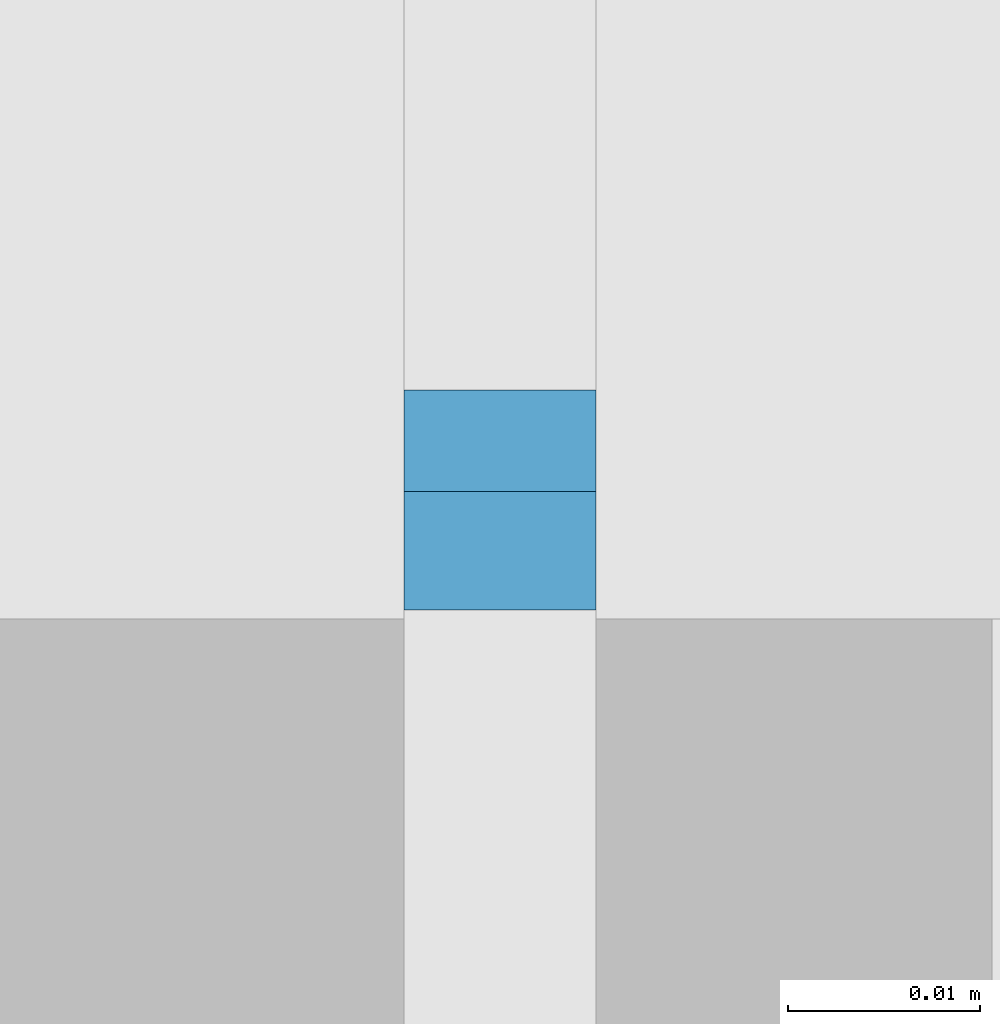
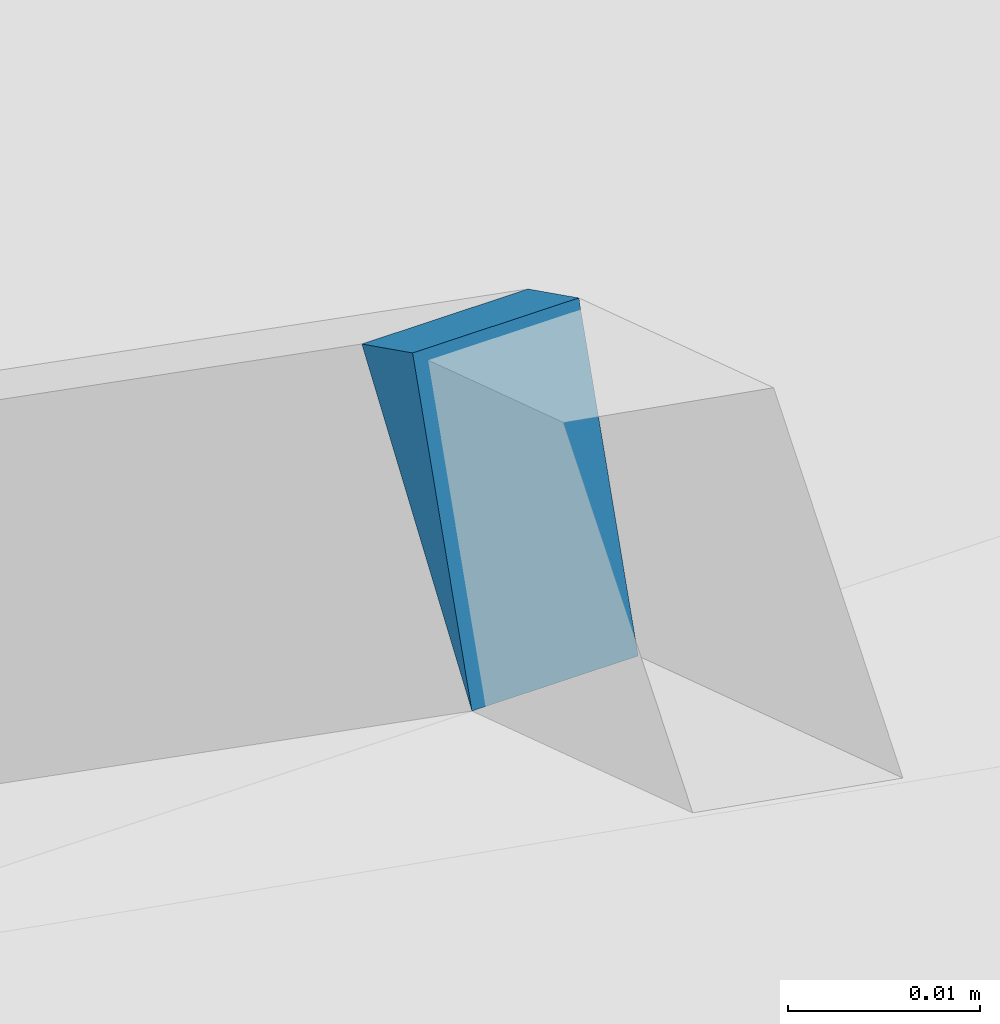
# One storey, part 339 of 583: 1 slab.
"""IFC2X3 building model written with IfcOpenShell, lengths in metres."""

from ifc_helpers import new_model, entity, si_unit, converted_unit, derived_unit, money_unit, direction, frame, origin_with_axes, place, context, subcontext, project, spatial, faceted_brep, material, type_object, element, save


model = new_model("IFC2X3")

# Units and contexts
model_context = context("Model", 3, precision=1e-05, world=origin_with_axes(), true_north=direction((0.0, 1.0)))
body_context = subcontext(model_context, "Body", "Model", "MODEL_VIEW", scale=1.0)
ifc_project = project(units=[si_unit("LENGTHUNIT", "METRE"), si_unit("AREAUNIT", "SQUARE_METRE"), si_unit("VOLUMEUNIT", "CUBIC_METRE"), si_unit("ABSORBEDDOSEUNIT", "GRAY"), si_unit("AMOUNTOFSUBSTANCEUNIT", "MOLE"), si_unit("DOSEEQUIVALENTUNIT", "SIEVERT"), si_unit("ELECTRICCAPACITANCEUNIT", "FARAD"), si_unit("ELECTRICCHARGEUNIT", "COULOMB"), si_unit("ELECTRICCONDUCTANCEUNIT", "SIEMENS"), si_unit("ELECTRICCURRENTUNIT", "AMPERE"), si_unit("ELECTRICRESISTANCEUNIT", "OHM"), si_unit("ELECTRICVOLTAGEUNIT", "VOLT"), si_unit("ENERGYUNIT", "JOULE"), si_unit("FORCEUNIT", "NEWTON"), si_unit("FREQUENCYUNIT", "HERTZ"), si_unit("ILLUMINANCEUNIT", "LUX"), si_unit("INDUCTANCEUNIT", "HENRY"), si_unit("LUMINOUSFLUXUNIT", "LUMEN"), si_unit("LUMINOUSINTENSITYUNIT", "CANDELA"), si_unit("MAGNETICFLUXDENSITYUNIT", "TESLA"), si_unit("MAGNETICFLUXUNIT", "WEBER"), si_unit("MASSUNIT", "GRAM"), converted_unit("PLANEANGLEUNIT", "degree", entity("IfcReal", 0.0174532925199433), si_unit("PLANEANGLEUNIT", "RADIAN"), dimensions=[0, 0, 0, 0, 0, 0, 0]), si_unit("POWERUNIT", "WATT"), si_unit("PRESSUREUNIT", "PASCAL"), si_unit("RADIOACTIVITYUNIT", "BECQUEREL"), si_unit("SOLIDANGLEUNIT", "STERADIAN"), si_unit("THERMODYNAMICTEMPERATUREUNIT", "KELVIN"), si_unit("TIMEUNIT", "SECOND"), derived_unit("ACCELERATIONUNIT", [(si_unit("LENGTHUNIT", "METRE"), 1), (si_unit("TIMEUNIT", "SECOND"), -2)]), derived_unit("ANGULARVELOCITYUNIT", [(converted_unit("PLANEANGLEUNIT", "degree", entity("IfcReal", 0.0174532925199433), si_unit("PLANEANGLEUNIT", "RADIAN"), dimensions=[0, 0, 0, 0, 0, 0, 0]), 1), (si_unit("TIMEUNIT", "SECOND"), -1)]), derived_unit("CURVATUREUNIT", [(converted_unit("PLANEANGLEUNIT", "degree", entity("IfcReal", 0.0174532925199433), si_unit("PLANEANGLEUNIT", "RADIAN"), dimensions=[0, 0, 0, 0, 0, 0, 0]), 1), (si_unit("LENGTHUNIT", "METRE"), -1)]), derived_unit("DYNAMICVISCOSITYUNIT", [(si_unit("PRESSUREUNIT", "PASCAL"), 1), (si_unit("TIMEUNIT", "SECOND"), 1)]), derived_unit("HEATFLUXDENSITYUNIT", [(si_unit("POWERUNIT", "WATT"), 1), (si_unit("LENGTHUNIT", "METRE"), -2)]), derived_unit("HEATINGVALUEUNIT", [(si_unit("ENERGYUNIT", "JOULE"), 1), (si_unit("MASSUNIT", "GRAM"), -1)]), derived_unit("INTEGERCOUNTRATEUNIT", [(si_unit("TIMEUNIT", "SECOND"), -1)]), derived_unit("IONCONCENTRATIONUNIT", [(si_unit("MASSUNIT", "GRAM"), 1), (si_unit("VOLUMEUNIT", "CUBIC_METRE"), -1)]), derived_unit("ISOTHERMALMOISTURECAPACITYUNIT", [(si_unit("VOLUMEUNIT", "CUBIC_METRE"), 1), (si_unit("MASSUNIT", "GRAM"), -1)]), derived_unit("KINEMATICVISCOSITYUNIT", [(si_unit("AREAUNIT", "SQUARE_METRE"), 1), (si_unit("TIMEUNIT", "SECOND"), -1)]), derived_unit("LINEARFORCEUNIT", [(si_unit("FORCEUNIT", "NEWTON"), 1), (si_unit("LENGTHUNIT", "METRE"), -1)]), derived_unit("LINEARMOMENTUNIT", [(si_unit("FORCEUNIT", "NEWTON"), 1), (si_unit("LENGTHUNIT", "METRE"), -1)]), derived_unit("LINEARSTIFFNESSUNIT", [(si_unit("FORCEUNIT", "NEWTON"), 1), (si_unit("LENGTHUNIT", "METRE"), -1)]), derived_unit("LINEARVELOCITYUNIT", [(si_unit("LENGTHUNIT", "METRE"), 1), (si_unit("TIMEUNIT", "SECOND"), -1)]), derived_unit("LUMINOUSINTENSITYDISTRIBUTIONUNIT", [(si_unit("LUMINOUSINTENSITYUNIT", "CANDELA"), 1), (si_unit("LUMINOUSFLUXUNIT", "LUMEN"), -1)]), derived_unit("MASSDENSITYUNIT", [(si_unit("MASSUNIT", "GRAM"), 1), (si_unit("VOLUMEUNIT", "CUBIC_METRE"), -1)]), derived_unit("MASSFLOWRATEUNIT", [(si_unit("MASSUNIT", "GRAM"), 1), (si_unit("TIMEUNIT", "SECOND"), -1)]), derived_unit("MASSPERLENGTHUNIT", [(si_unit("MASSUNIT", "GRAM"), 1), (si_unit("LENGTHUNIT", "METRE"), -1)]), derived_unit("MODULUSOFELASTICITYUNIT", [(si_unit("FORCEUNIT", "NEWTON"), 1), (si_unit("AREAUNIT", "SQUARE_METRE"), -1)]), derived_unit("MODULUSOFLINEARSUBGRADEREACTIONUNIT", [(si_unit("FORCEUNIT", "NEWTON"), 1), (si_unit("LENGTHUNIT", "METRE"), -2)]), derived_unit("MODULUSOFROTATIONALSUBGRADEREACTIONUNIT", [(si_unit("FORCEUNIT", "NEWTON"), 1), (si_unit("LENGTHUNIT", "METRE"), 1)]), derived_unit("MODULUSOFSUBGRADEREACTIONUNIT", [(si_unit("FORCEUNIT", "NEWTON"), 1), (si_unit("VOLUMEUNIT", "CUBIC_METRE"), -1)]), derived_unit("MOISTUREDIFFUSIVITYUNIT", [(si_unit("VOLUMEUNIT", "CUBIC_METRE"), 1), (si_unit("TIMEUNIT", "SECOND"), -1)]), derived_unit("MOLECULARWEIGHTUNIT", [(si_unit("MASSUNIT", "GRAM"), 1), (si_unit("AMOUNTOFSUBSTANCEUNIT", "MOLE"), -1)]), derived_unit("PLANARFORCEUNIT", [(si_unit("FORCEUNIT", "NEWTON"), 1), (si_unit("LENGTHUNIT", "METRE"), -2)]), derived_unit("ROTATIONALFREQUENCYUNIT", [(si_unit("TIMEUNIT", "SECOND"), -1)]), derived_unit("ROTATIONALMASSUNIT", [(si_unit("MASSUNIT", "GRAM"), 1), (si_unit("LENGTHUNIT", "METRE"), 2)]), derived_unit("ROTATIONALSTIFFNESSUNIT", [(si_unit("FORCEUNIT", "NEWTON"), 1), (si_unit("LENGTHUNIT", "METRE"), 1), (converted_unit("PLANEANGLEUNIT", "degree", entity("IfcReal", 0.0174532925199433), si_unit("PLANEANGLEUNIT", "RADIAN"), dimensions=[0, 0, 0, 0, 0, 0, 0]), -1)]), derived_unit("SECTIONAREAINTEGRALUNIT", [(si_unit("LENGTHUNIT", "METRE"), 5)]), derived_unit("SECTIONMODULUSUNIT", [(si_unit("LENGTHUNIT", "METRE"), 3)]), derived_unit("SHEARMODULUSUNIT", [(si_unit("FORCEUNIT", "NEWTON"), 1), (si_unit("AREAUNIT", "SQUARE_METRE"), -1)]), derived_unit("SOUNDPOWERUNIT", [(si_unit("ENERGYUNIT", "JOULE"), 1), (si_unit("TIMEUNIT", "SECOND"), -1)]), derived_unit("SPECIFICHEATCAPACITYUNIT", [(si_unit("FORCEUNIT", "NEWTON"), 1), (si_unit("MASSUNIT", "GRAM"), -1), (si_unit("THERMODYNAMICTEMPERATUREUNIT", "KELVIN"), -1)]), derived_unit("TEMPERATUREGRADIENTUNIT", [(si_unit("THERMODYNAMICTEMPERATUREUNIT", "KELVIN"), 1), (si_unit("LENGTHUNIT", "METRE"), -1)]), derived_unit("THERMALADMITTANCEUNIT", [(si_unit("POWERUNIT", "WATT"), 1), (si_unit("AREAUNIT", "SQUARE_METRE"), -1), (si_unit("THERMODYNAMICTEMPERATUREUNIT", "KELVIN"), -1)]), derived_unit("THERMALCONDUCTANCEUNIT", [(si_unit("POWERUNIT", "WATT"), 1), (si_unit("LENGTHUNIT", "METRE"), -1), (si_unit("THERMODYNAMICTEMPERATUREUNIT", "KELVIN"), -1)]), derived_unit("THERMALEXPANSIONCOEFFICIENTUNIT", [(si_unit("THERMODYNAMICTEMPERATUREUNIT", "KELVIN"), -1)]), derived_unit("THERMALRESISTANCEUNIT", [(si_unit("AREAUNIT", "SQUARE_METRE"), 1), (si_unit("POWERUNIT", "WATT"), -1)]), derived_unit("THERMALTRANSMITTANCEUNIT", [(si_unit("POWERUNIT", "WATT"), 1), (si_unit("AREAUNIT", "SQUARE_METRE"), -1), (si_unit("THERMODYNAMICTEMPERATUREUNIT", "KELVIN"), -1)]), derived_unit("TORQUEUNIT", [(si_unit("FORCEUNIT", "NEWTON"), 1), (si_unit("LENGTHUNIT", "METRE"), 1)]), derived_unit("VAPORPERMEABILITYUNIT", [(si_unit("MASSUNIT", "GRAM"), 1), (si_unit("TIMEUNIT", "SECOND"), -1)]), derived_unit("VOLUMETRICFLOWRATEUNIT", [(si_unit("VOLUMEUNIT", "CUBIC_METRE"), 1), (si_unit("TIMEUNIT", "SECOND"), -1)]), derived_unit("WARPINGCONSTANTUNIT", [(si_unit("LENGTHUNIT", "METRE"), 6)]), derived_unit("WARPINGMOMENTUNIT", [(si_unit("FORCEUNIT", "NEWTON"), 1), (si_unit("LENGTHUNIT", "METRE"), 2)]), money_unit("GBP")], contexts=[model_context])

# Site, building, storey
site_placement = place(None, origin_with_axes())
site = spatial("IfcSite", under=ifc_project, at=site_placement, Name="Site", CompositionType="ELEMENT")
building_placement = place(site_placement, origin_with_axes())
building = spatial("IfcBuilding", under=site, at=building_placement, Name="Building01", CompositionType="ELEMENT")
storey_placement = place(building_placement, frame((0.0, 0.0, 20.78), z_axis=(0.0, 0.0, 1.0), x_axis=(1.0, 0.0, 0.0)))
storey = spatial("IfcBuildingStorey", under=building, at=storey_placement, Name="RL", CompositionType="ELEMENT", Elevation=20.78)

# Slab
ifc_material = material(Name="A_BSUK_Roofs")
slab_type = type_object("IfcSlabType", Name="A-FloorsSlabs A_BSUK_Slabs", PredefinedType="FLOOR")
slab_placement = place(storey_placement, frame((1.443975, 18.791933, 4.882123), z_axis=(0.0, 1.0, 0.0), x_axis=(1.0, 0.0, 0.0)))
element("IfcSlab", 1, at=slab_placement, inside=storey, type_object=slab_type, material=ifc_material, Name="A-FloorsSlabs A_BSUK_Slabs", ObjectType="A-FloorsSlabs A_BSUK_Slabs", context=body_context, shape_type="Brep", body=[
    faceted_brep([(0.0, 0.0, 0.0), (-0.01, 0.0, 0.0), (-0.01, -0.002638, -0.005291), (0.0, -0.002638, -0.005291), (-0.01, 0.016383, -0.011472), (0.0, 0.016383, -0.011472)], [[[0, 1, 2, 3]], [[3, 2, 4, 5]], [[5, 4, 1, 0]], [[1, 4, 2]], [[3, 5, 0]]]),
])

save(model, "model.ifc")
